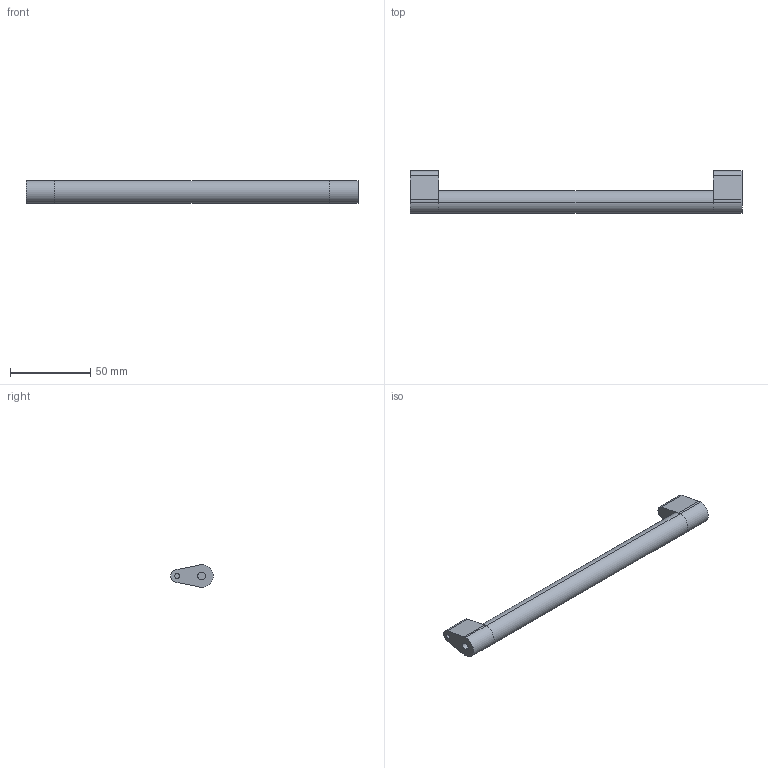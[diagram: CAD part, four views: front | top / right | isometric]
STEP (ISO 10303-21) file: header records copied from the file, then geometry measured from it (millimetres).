
FILE_DESCRIPTION (( 'STEP AP214' ), '1' );
FILE_NAME ('_Synchronisationseinheit DWD XP KAB300_S16.step', '2010-07-08T13:58:14', ( 'grass' ), ( '' ), 'SwSTEP 2.0', 'SolidWorks 2010', '' );
FILE_SCHEMA (( 'AUTOMOTIVE_DESIGN' ));
Length unit declared in the file: millimetre
Products named in the file (1): _Synchronisationseinheit DWD XP KAB300_S16
Bounding box: 207 x 26.5 x 14 mm (x, y, z)
Volume: 35552 mm3; surface area: 11951.3 mm2
Topology: 3 solids, 3 shells, 36 faces, 78 edges, 52 vertices
Faces by surface type: cylinder 18, plane 18
Entity records: 1050 total; most frequent: DIRECTION 188, CARTESIAN_POINT 167, ORIENTED_EDGE 156, EDGE_CURVE 78, AXIS2_PLACEMENT_3D 73, VERTEX_POINT 52, VECTOR 42, LINE 42
